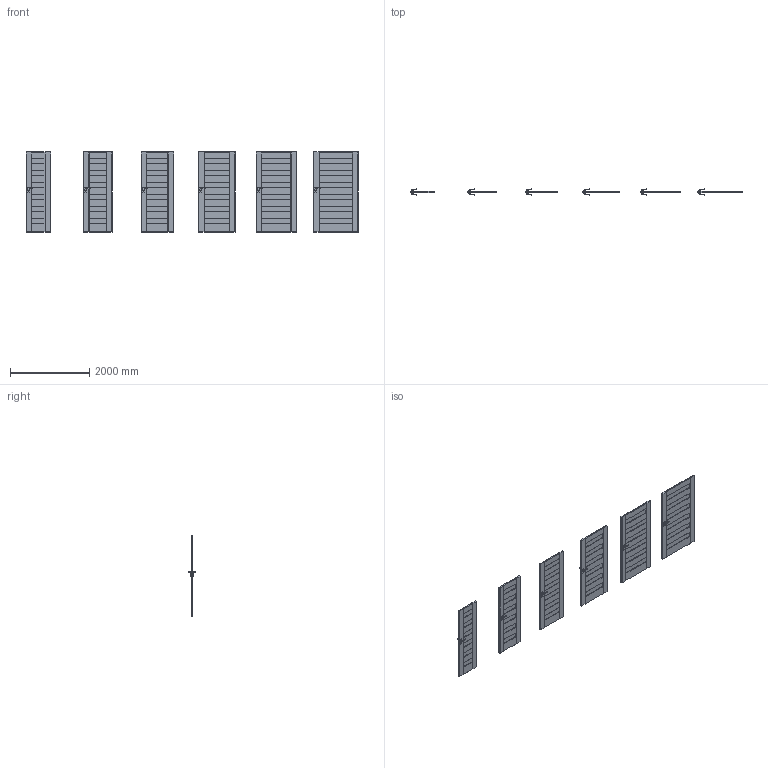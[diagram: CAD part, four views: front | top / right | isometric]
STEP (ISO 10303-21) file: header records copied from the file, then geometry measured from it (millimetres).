
FILE_DESCRIPTION(/* description */ (''),/* implementation_level */ '2;1');
FILE_NAME(/* name */ '049777_A_2-Skrzydło Koncept model C_ polska norma _PN__ bezprzylgowe..stp',/* time_stamp */ '2024-03-15T11:49:07+01:00',/* author */ (''),/* organization */ (''),/* preprocessor_version */ 'ST-DEVELOPER v16',/* originating_system */ 'SIEMENS PLM Software NX 11.0',/* authorisation */ '');
FILE_SCHEMA (('AUTOMOTIVE_DESIGN { 1 0 10303 214 3 1 1 1 }'));
Products named in the file (1): bkni33F4D18Cdsuv
Bounding box: 8368 x 153.27 x 2017.01 mm (x, y, z)
Volume: 307529826.2 mm3; surface area: 24149837.5 mm2
Topology: 30 solids, 30 shells, 2052 faces, 5448 edges, 3336 vertices
Faces by surface type: plane 900, cylinder 792, bspline 192, sphere 168
Entity records: 70177 total; most frequent: CARTESIAN_POINT 20854, ORIENTED_EDGE 10560, DIRECTION 9890, EDGE_CURVE 5280, AXIS2_PLACEMENT_3D 3397, VERTEX_POINT 3336, LINE 3096, VECTOR 3096
